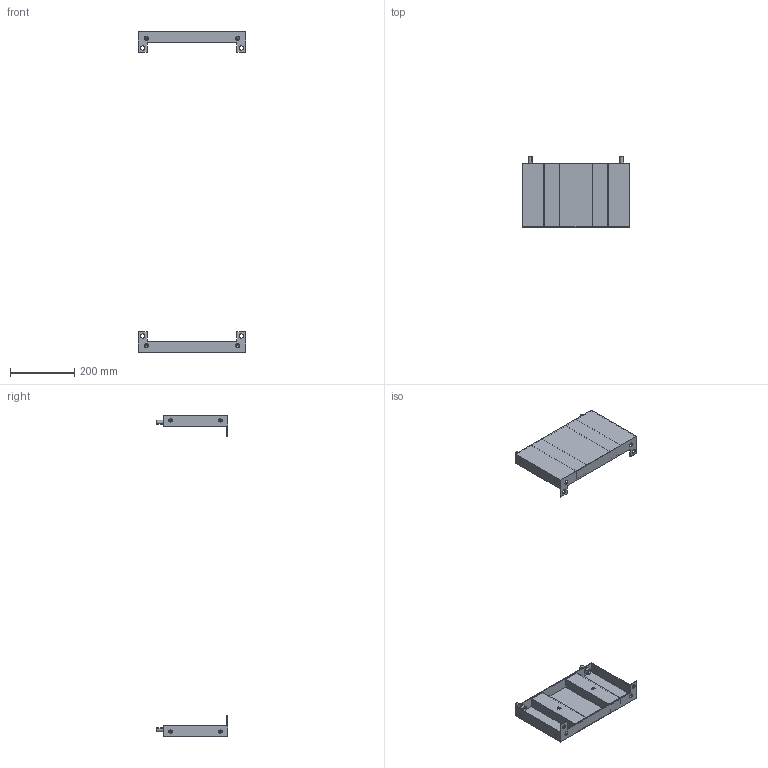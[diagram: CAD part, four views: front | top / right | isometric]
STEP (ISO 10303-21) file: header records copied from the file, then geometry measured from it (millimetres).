
FILE_DESCRIPTION (( 'STEP AP203' ), '1' );
FILE_NAME ('R6PLB40-200 H=1000 SIMPLE.STEP', '2026-07-22T11:12:58', ( '' ), ( '' ), 'SwSTEP 2.0', 'SolidWorks 2022', '' );
FILE_SCHEMA (( 'CONFIG_CONTROL_DESIGN' ));
Length unit declared in the file: millimetre
Products named in the file (8): РГМЦ.RB.3309.00.00.0 СБ SIMPLE 04-07_-06; 12 DIN 6798 A Zinc; R6PLB40-200 H=1000 SIMPLE; M12x25 DIN 912 HX cl.8,8 Zinc_stright; РГМЦ.RB.3309.00.01.0 simple_-06; M6 MGS-MPO-0635_thread; РГМЦ.RB.3309.00.02.0 simple_-01; M6 MGS-MPO-0635_straight
Assembly tree (19 placements, depth 3):
  R6PLB40-200 H=1000 SIMPLE
    РГМЦ.RB.3309.00.00.0 СБ SIMPLE 04-07_-06  x2
      РГМЦ.RB.3309.00.01.0 simple_-06
      M6 MGS-MPO-0635_thread
      РГМЦ.RB.3309.00.02.0 simple_-01
      M6 MGS-MPO-0635_straight
    12 DIN 6798 A Zinc  x4
    M12x25 DIN 912 HX cl.8,8 Zinc_stright  x4
Bounding box: 336.7 x 221.5 x 1000 mm (x, y, z)
Volume: 741076.6 mm3; surface area: 606785.8 mm2
Topology: 26 solids, 26 shells, 1468 faces, 3828 edges, 2188 vertices
Faces by surface type: plane 556, cylinder 544, bspline 152, sphere 144, cone 40, torus 32
Entity records: 13372 total; most frequent: CARTESIAN_POINT 5039, ORIENTED_EDGE 1540, DIRECTION 1409, EDGE_CURVE 770, VERTEX_POINT 482, AXIS2_PLACEMENT_3D 473, LINE 463, VECTOR 463
